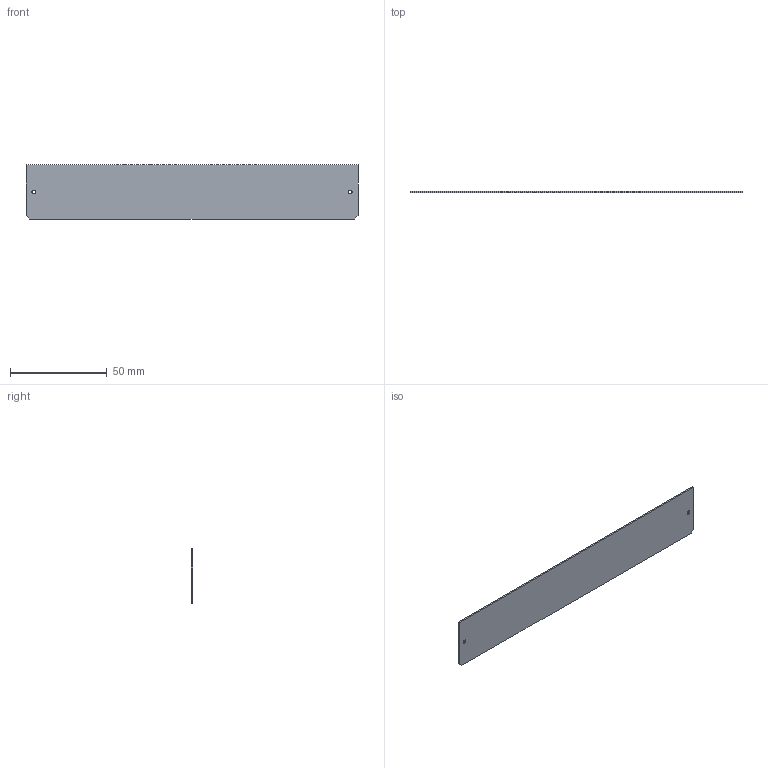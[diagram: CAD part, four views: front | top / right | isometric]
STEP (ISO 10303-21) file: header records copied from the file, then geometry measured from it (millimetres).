
FILE_DESCRIPTION (( 'STEP AP214' ), '1' );
FILE_NAME ('LBRX-00-160-6-X-24V-POLARIZER (V).STEP', '2017-06-20T02:19:58', ( '' ), ( '' ), 'SwSTEP 2.0', 'SolidWorks 2016', '' );
FILE_SCHEMA (( 'AUTOMOTIVE_DESIGN' ));
Length unit declared in the file: millimetre
Products named in the file (1): LBRX-00-160-6-X-24V-POLARIZER (V)
Bounding box: 172 x 0.8 x 28.2 mm (x, y, z)
Volume: 3872.1 mm3; surface area: 10008.7 mm2
Topology: 1 solids, 1 shells, 12 faces, 30 edges, 20 vertices
Faces by surface type: plane 8, cylinder 4
Entity records: 404 total; most frequent: DIRECTION 64, CARTESIAN_POINT 63, ORIENTED_EDGE 60, EDGE_CURVE 30, VECTOR 22, LINE 22, AXIS2_PLACEMENT_3D 21, VERTEX_POINT 20
